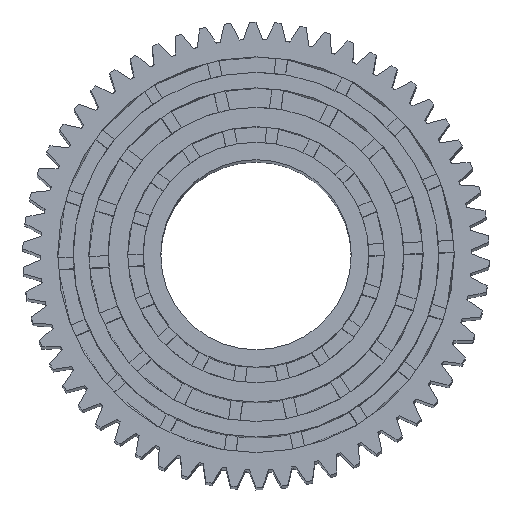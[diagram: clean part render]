
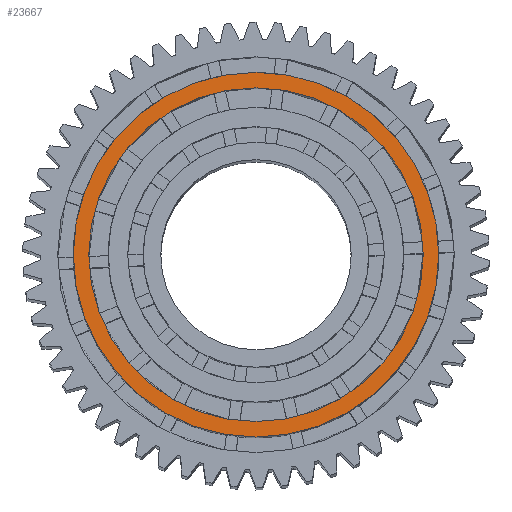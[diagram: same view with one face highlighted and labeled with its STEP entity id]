
A CAD part, left-side view. The second image highlights one B-rep face of the part: STEP entity #23667.
In plain terms, the highlighted planar face has unit normal (-0.998, 0, 0.067).
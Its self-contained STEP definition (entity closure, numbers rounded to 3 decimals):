
#111 = AXIS2_PLACEMENT_3D ( 'NONE', #10037, #9942, #15979 ) ;
#116 = EDGE_CURVE ( 'NONE', #5320, #11169, #20243, .T. ) ;
#257 = DIRECTION ( 'NONE',  ( 0.998, 0., -0.067 ) ) ;
#610 = CARTESIAN_POINT ( 'NONE',  ( -94.486, 72.395, 160.121 ) ) ;
#1060 = AXIS2_PLACEMENT_3D ( 'NONE', #3488, #22372, #8028 ) ;
#1174 = FACE_OUTER_BOUND ( 'NONE', #5873, .T. ) ;
#1729 = ORIENTED_EDGE ( 'NONE', *, *, #116, .F. ) ;
#1901 = DIRECTION ( 'NONE',  ( -0.067, 0., -0.998 ) ) ;
#2020 = CARTESIAN_POINT ( 'NONE',  ( -91.465, 72.395, 205.02 ) ) ;
#2614 = DIRECTION ( 'NONE',  ( -0.067, 0., -0.998 ) ) ;
#3282 = CIRCLE ( 'NONE', #111, 21.5 ) ;
#3488 = CARTESIAN_POINT ( 'NONE',  ( -92.908, 72.395, 183.568 ) ) ;
#3679 = CARTESIAN_POINT ( 'NONE',  ( -91.33, 72.395, 207.015 ) ) ;
#4808 = DIRECTION ( 'NONE',  ( -0.067, 0., -0.998 ) ) ;
#5210 = ORIENTED_EDGE ( 'NONE', *, *, #13711, .F. ) ;
#5320 = VERTEX_POINT ( 'NONE', #610 ) ;
#5873 = EDGE_LOOP ( 'NONE', ( #1729, #5210 ) ) ;
#6388 = FACE_BOUND ( 'NONE', #6791, .T. ) ;
#6791 = EDGE_LOOP ( 'NONE', ( #25264, #12895 ) ) ;
#8028 = DIRECTION ( 'NONE',  ( -0.067, 0., -0.998 ) ) ;
#8139 = EDGE_CURVE ( 'NONE', #23093, #22569, #3282, .T. ) ;
#8926 = CARTESIAN_POINT ( 'NONE',  ( -91.451, 81.396, 205.227 ) ) ;
#9942 = DIRECTION ( 'NONE',  ( -0.998, 0., 0.067 ) ) ;
#10037 = CARTESIAN_POINT ( 'NONE',  ( -92.908, 72.395, 183.568 ) ) ;
#10737 = CARTESIAN_POINT ( 'NONE',  ( -92.908, 72.395, 183.568 ) ) ;
#11169 = VERTEX_POINT ( 'NONE', #3679 ) ;
#12895 = ORIENTED_EDGE ( 'NONE', *, *, #8139, .F. ) ;
#13016 = AXIS2_PLACEMENT_3D ( 'NONE', #8926, #257, #4808 ) ;
#13711 = EDGE_CURVE ( 'NONE', #11169, #5320, #18619, .T. ) ;
#13743 = AXIS2_PLACEMENT_3D ( 'NONE', #10737, #25332, #2614 ) ;
#14405 = DIRECTION ( 'NONE',  ( -0.998, 0., 0.067 ) ) ;
#15143 = PLANE ( 'NONE',  #13016 ) ;
#15979 = DIRECTION ( 'NONE',  ( -0.067, 0., -0.998 ) ) ;
#16762 = AXIS2_PLACEMENT_3D ( 'NONE', #18065, #14405, #1901 ) ;
#18065 = CARTESIAN_POINT ( 'NONE',  ( -92.908, 72.395, 183.568 ) ) ;
#18619 = CIRCLE ( 'NONE', #1060, 23.5 ) ;
#19470 = EDGE_CURVE ( 'NONE', #22569, #23093, #25769, .T. ) ;
#20243 = CIRCLE ( 'NONE', #13743, 23.5 ) ;
#20933 = CARTESIAN_POINT ( 'NONE',  ( -94.352, 72.395, 162.117 ) ) ;
#22372 = DIRECTION ( 'NONE',  ( 0.998, 0., -0.067 ) ) ;
#22569 = VERTEX_POINT ( 'NONE', #20933 ) ;
#23093 = VERTEX_POINT ( 'NONE', #2020 ) ;
#23667 = ADVANCED_FACE ( 'NONE', ( #6388, #1174 ), #15143, .F. ) ;
#25264 = ORIENTED_EDGE ( 'NONE', *, *, #19470, .F. ) ;
#25332 = DIRECTION ( 'NONE',  ( 0.998, 0., -0.067 ) ) ;
#25769 = CIRCLE ( 'NONE', #16762, 21.5 ) ;
